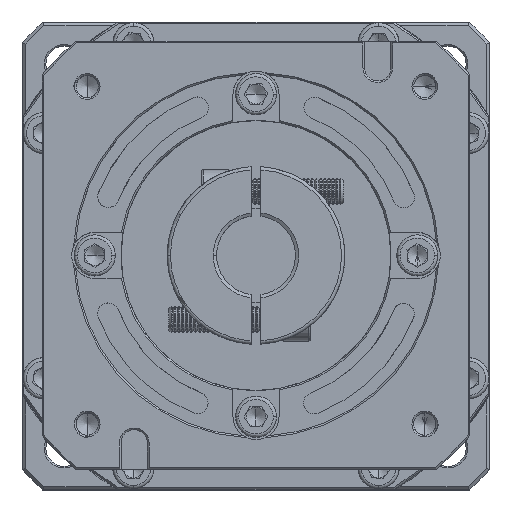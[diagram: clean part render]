
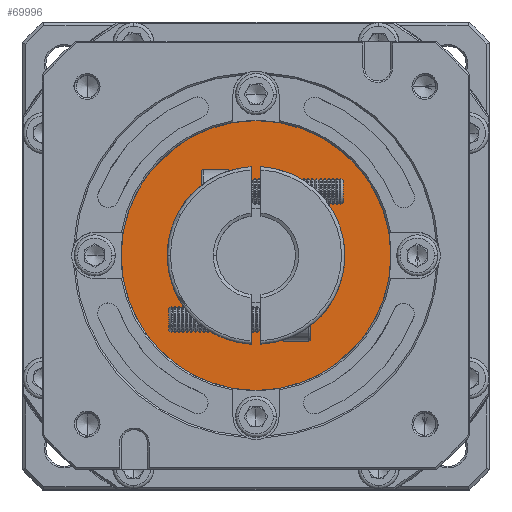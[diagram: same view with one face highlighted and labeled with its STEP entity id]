
A CAD part, top view. The second image highlights one B-rep face of the part: STEP entity #69996.
In plain terms, the highlighted planar face has unit normal (0, 0, 1).
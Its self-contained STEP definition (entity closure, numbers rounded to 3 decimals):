
#5453 = ORIENTED_EDGE ( 'NONE', *, *, #5623, .T. ) ;
#5623 = EDGE_CURVE ( 'NONE', #69285, #13366, #40615, .T. ) ;
#6086 = EDGE_LOOP ( 'NONE', ( #5453, #118727 ) ) ;
#8734 = PLANE ( 'NONE',  #118473 ) ;
#9248 = DIRECTION ( 'NONE',  ( 0., -1., 0. ) ) ;
#12679 = AXIS2_PLACEMENT_3D ( 'NONE', #47629, #131507, #22993 ) ;
#13366 = VERTEX_POINT ( 'NONE', #16014 ) ;
#14779 = CARTESIAN_POINT ( 'NONE',  ( -131.705, 81.383, 32.725 ) ) ;
#16014 = CARTESIAN_POINT ( 'NONE',  ( -131.705, 122.383, 32.725 ) ) ;
#22993 = DIRECTION ( 'NONE',  ( 0., -1., 0. ) ) ;
#40615 = CIRCLE ( 'NONE', #44933, 41. ) ;
#44933 = AXIS2_PLACEMENT_3D ( 'NONE', #14779, #144847, #109081 ) ;
#47629 = CARTESIAN_POINT ( 'NONE',  ( -131.705, 81.383, 32.725 ) ) ;
#49962 = CIRCLE ( 'NONE', #128195, 41. ) ;
#58590 = DIRECTION ( 'NONE',  ( 0., 0., 1. ) ) ;
#68395 = VERTEX_POINT ( 'NONE', #107733 ) ;
#69285 = VERTEX_POINT ( 'NONE', #139897 ) ;
#69996 = ADVANCED_FACE ( 'NONE', ( #95681, #127494 ), #8734, .T. ) ;
#73285 = EDGE_CURVE ( 'NONE', #68395, #98862, #144029, .T. ) ;
#74602 = EDGE_LOOP ( 'NONE', ( #90869, #117013 ) ) ;
#78954 = AXIS2_PLACEMENT_3D ( 'NONE', #139617, #151740, #80412 ) ;
#80412 = DIRECTION ( 'NONE',  ( 0., -1., 0. ) ) ;
#81094 = CARTESIAN_POINT ( 'NONE',  ( -131.705, 81.383, 32.725 ) ) ;
#82726 = EDGE_CURVE ( 'NONE', #98862, #68395, #136349, .T. ) ;
#85253 = CARTESIAN_POINT ( 'NONE',  ( -131.705, 101.383, 32.725 ) ) ;
#90869 = ORIENTED_EDGE ( 'NONE', *, *, #73285, .T. ) ;
#95681 = FACE_OUTER_BOUND ( 'NONE', #6086, .T. ) ;
#98862 = VERTEX_POINT ( 'NONE', #85253 ) ;
#107733 = CARTESIAN_POINT ( 'NONE',  ( -131.705, 61.383, 32.725 ) ) ;
#107764 = DIRECTION ( 'NONE',  ( 0., -1., 0. ) ) ;
#109081 = DIRECTION ( 'NONE',  ( 0., -1., 0. ) ) ;
#117013 = ORIENTED_EDGE ( 'NONE', *, *, #82726, .T. ) ;
#118311 = CARTESIAN_POINT ( 'NONE',  ( -131.705, 81.383, 32.725 ) ) ;
#118473 = AXIS2_PLACEMENT_3D ( 'NONE', #81094, #152946, #9248 ) ;
#118727 = ORIENTED_EDGE ( 'NONE', *, *, #120019, .T. ) ;
#120019 = EDGE_CURVE ( 'NONE', #13366, #69285, #49962, .T. ) ;
#127494 = FACE_BOUND ( 'NONE', #74602, .T. ) ;
#128195 = AXIS2_PLACEMENT_3D ( 'NONE', #118311, #58590, #107764 ) ;
#131507 = DIRECTION ( 'NONE',  ( 0., 0., -1. ) ) ;
#136349 = CIRCLE ( 'NONE', #78954, 20. ) ;
#139617 = CARTESIAN_POINT ( 'NONE',  ( -131.705, 81.383, 32.725 ) ) ;
#139897 = CARTESIAN_POINT ( 'NONE',  ( -131.705, 40.383, 32.725 ) ) ;
#144029 = CIRCLE ( 'NONE', #12679, 20. ) ;
#144847 = DIRECTION ( 'NONE',  ( 0., 0., 1. ) ) ;
#151740 = DIRECTION ( 'NONE',  ( 0., 0., -1. ) ) ;
#152946 = DIRECTION ( 'NONE',  ( 0., 0., 1. ) ) ;
